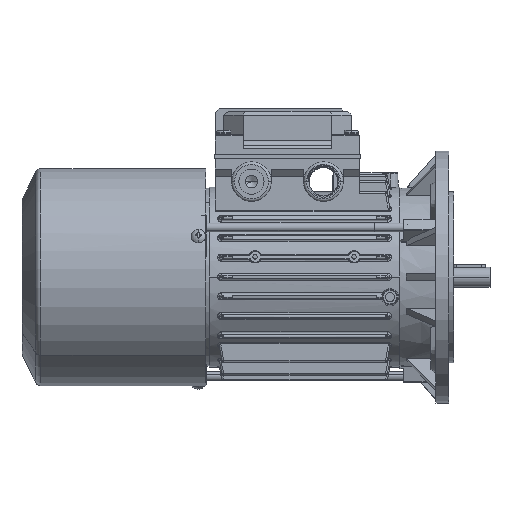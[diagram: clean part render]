
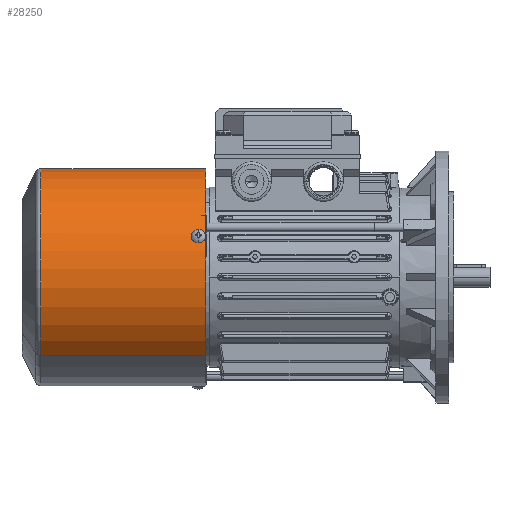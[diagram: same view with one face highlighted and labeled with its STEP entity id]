
A CAD part, top view. The second image highlights one B-rep face of the part: STEP entity #28250.
In plain terms, the highlighted cylindrical face has radius 60.5 mm (diameter 121 mm), a partial arc.
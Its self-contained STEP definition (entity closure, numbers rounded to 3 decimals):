
#2156 = CARTESIAN_POINT ( 'NONE',  ( 22.784, 96., 56.046 ) ) ;
#2487 = CARTESIAN_POINT ( 'NONE',  ( 24.447, 97.481, 55.341 ) ) ;
#5502 = EDGE_CURVE ( 'NONE', #46378, #92790, #84632, .T. ) ;
#5741 = CARTESIAN_POINT ( 'NONE',  ( 23.262, 99.897, 55.849 ) ) ;
#6064 = CARTESIAN_POINT ( 'NONE',  ( 21.183, 99.222, 56.67 ) ) ;
#6593 = DIRECTION ( 'NONE',  ( -1., 0., 0. ) ) ;
#6677 = AXIS2_PLACEMENT_3D ( 'NONE', #17742, #71002, #25391 ) ;
#8401 = CARTESIAN_POINT ( 'NONE',  ( -60.5, 10.474, 0. ) ) ;
#9468 = CARTESIAN_POINT ( 'NONE',  ( 20.797, 98., 56.813 ) ) ;
#9793 = CARTESIAN_POINT ( 'NONE',  ( 23.144, 96.064, 55.898 ) ) ;
#10126 = CARTESIAN_POINT ( 'NONE',  ( 24.506, 97.869, 55.315 ) ) ;
#10375 = EDGE_CURVE ( 'NONE', #28472, #22061, #54127, .T. ) ;
#11757 = LINE ( 'NONE', #44557, #70060 ) ;
#13349 = CARTESIAN_POINT ( 'NONE',  ( 22.908, 99.987, 55.996 ) ) ;
#13678 = CARTESIAN_POINT ( 'NONE',  ( 20.988, 98.888, 56.743 ) ) ;
#17055 = CARTESIAN_POINT ( 'NONE',  ( 20.893, 97.355, 56.778 ) ) ;
#17372 = CARTESIAN_POINT ( 'NONE',  ( 23.482, 96.202, 55.757 ) ) ;
#17742 = CARTESIAN_POINT ( 'NONE',  ( 0., 102., 0. ) ) ;
#20974 = CARTESIAN_POINT ( 'NONE',  ( 22.543, 100., 56.143 ) ) ;
#21314 = CARTESIAN_POINT ( 'NONE',  ( 20.797, 98.264, 56.813 ) ) ;
#21631 = DIRECTION ( 'NONE',  ( 0., 1., 0. ) ) ;
#22061 = VERTEX_POINT ( 'NONE', #82718 ) ;
#22452 = EDGE_LOOP ( 'NONE', ( #79610, #44572 ) ) ;
#22935 = EDGE_CURVE ( 'NONE', #28472, #74127, #53757, .T. ) ;
#24714 = CARTESIAN_POINT ( 'NONE',  ( 21.045, 96.998, 56.722 ) ) ;
#25031 = CARTESIAN_POINT ( 'NONE',  ( 23.79, 96.409, 55.626 ) ) ;
#25391 = DIRECTION ( 'NONE',  ( -1., 0., 0. ) ) ;
#27709 = DIRECTION ( 'NONE',  ( 0., 1., 0. ) ) ;
#28250 = ADVANCED_FACE ( 'NONE', ( #82869, #65065 ), #98243, .T. ) ;
#28265 = CARTESIAN_POINT ( 'NONE',  ( 24.458, 98.524, 55.336 ) ) ;
#28472 = VERTEX_POINT ( 'NONE', #8401 ) ;
#28596 = CARTESIAN_POINT ( 'NONE',  ( 22.184, 99.937, 56.286 ) ) ;
#32348 = CARTESIAN_POINT ( 'NONE',  ( 21.26, 96.678, 56.642 ) ) ;
#32674 = CARTESIAN_POINT ( 'NONE',  ( 24.054, 96.679, 55.513 ) ) ;
#35913 = CARTESIAN_POINT ( 'NONE',  ( 24.139, 99.229, 55.476 ) ) ;
#36250 = CARTESIAN_POINT ( 'NONE',  ( 21.84, 99.798, 56.42 ) ) ;
#39679 = CARTESIAN_POINT ( 'NONE',  ( 20.809, 97.738, 56.809 ) ) ;
#39970 = EDGE_CURVE ( 'NONE', #22061, #83988, #11757, .T. ) ;
#40003 = CARTESIAN_POINT ( 'NONE',  ( 21.728, 96.252, 56.464 ) ) ;
#40327 = CARTESIAN_POINT ( 'NONE',  ( 24.263, 96.997, 55.422 ) ) ;
#41338 = CIRCLE ( 'NONE', #6677, 60.5 ) ;
#42907 = CARTESIAN_POINT ( 'NONE',  ( 24.506, 98., 55.315 ) ) ;
#42985 = DIRECTION ( 'NONE',  ( -1., 0., 0. ) ) ;
#43578 = CARTESIAN_POINT ( 'NONE',  ( 23.791, 99.59, 55.626 ) ) ;
#43900 = CARTESIAN_POINT ( 'NONE',  ( 21.53, 99.592, 56.54 ) ) ;
#44557 = CARTESIAN_POINT ( 'NONE',  ( 60.5, 139.861, 0. ) ) ;
#44572 = ORIENTED_EDGE ( 'NONE', *, *, #63585, .F. ) ;
#46378 = VERTEX_POINT ( 'NONE', #79517 ) ;
#47298 = CARTESIAN_POINT ( 'NONE',  ( 20.797, 97.868, 56.813 ) ) ;
#47625 = CARTESIAN_POINT ( 'NONE',  ( 22.421, 96., 56.193 ) ) ;
#47952 = CARTESIAN_POINT ( 'NONE',  ( 24.412, 97.356, 55.356 ) ) ;
#48415 = ORIENTED_EDGE ( 'NONE', *, *, #10375, .T. ) ;
#50463 = ORIENTED_EDGE ( 'NONE', *, *, #39970, .T. ) ;
#51213 = CARTESIAN_POINT ( 'NONE',  ( 23.485, 99.797, 55.756 ) ) ;
#51545 = CARTESIAN_POINT ( 'NONE',  ( 21.261, 99.323, 56.641 ) ) ;
#52083 = DIRECTION ( 'NONE',  ( 0., 1., 0. ) ) ;
#52563 = EDGE_CURVE ( 'NONE', #74127, #83988, #41338, .T. ) ;
#53049 = CARTESIAN_POINT ( 'NONE',  ( 24.506, 98., 55.315 ) ) ;
#53757 = LINE ( 'NONE', #90740, #71641 ) ;
#54127 = CIRCLE ( 'NONE', #92729, 60.5 ) ;
#55292 = CARTESIAN_POINT ( 'NONE',  ( 22.907, 96.013, 55.996 ) ) ;
#55615 = CARTESIAN_POINT ( 'NONE',  ( 24.494, 97.737, 55.32 ) ) ;
#58867 = CARTESIAN_POINT ( 'NONE',  ( 23.144, 99.936, 55.898 ) ) ;
#59198 = CARTESIAN_POINT ( 'NONE',  ( 21.046, 99.004, 56.721 ) ) ;
#62638 = CARTESIAN_POINT ( 'NONE',  ( 20.857, 97.482, 56.791 ) ) ;
#62962 = CARTESIAN_POINT ( 'NONE',  ( 23.259, 96.102, 55.851 ) ) ;
#63292 = CARTESIAN_POINT ( 'NONE',  ( 24.506, 98., 55.315 ) ) ;
#63585 = EDGE_CURVE ( 'NONE', #92790, #46378, #95056, .T. ) ;
#65065 = FACE_OUTER_BOUND ( 'NONE', #70242, .T. ) ;
#66553 = CARTESIAN_POINT ( 'NONE',  ( 22.788, 100., 56.045 ) ) ;
#66894 = CARTESIAN_POINT ( 'NONE',  ( 20.847, 98.527, 56.795 ) ) ;
#67334 = AXIS2_PLACEMENT_3D ( 'NONE', #96104, #27709, #42985 ) ;
#70060 = VECTOR ( 'NONE', #21631, 1000. ) ;
#70242 = EDGE_LOOP ( 'NONE', ( #48415, #50463, #88093, #76275 ) ) ;
#70314 = CARTESIAN_POINT ( 'NONE',  ( 20.987, 97.113, 56.743 ) ) ;
#70637 = CARTESIAN_POINT ( 'NONE',  ( 23.59, 96.265, 55.711 ) ) ;
#71002 = DIRECTION ( 'NONE',  ( 0., 1., 0. ) ) ;
#71641 = VECTOR ( 'NONE', #83133, 1000. ) ;
#72596 = CARTESIAN_POINT ( 'NONE',  ( 60.5, 102., 0. ) ) ;
#74127 = VERTEX_POINT ( 'NONE', #75372 ) ;
#74195 = CARTESIAN_POINT ( 'NONE',  ( 22.422, 99.987, 56.192 ) ) ;
#74521 = CARTESIAN_POINT ( 'NONE',  ( 20.797, 98., 56.813 ) ) ;
#75372 = CARTESIAN_POINT ( 'NONE',  ( -60.5, 102., 0. ) ) ;
#76275 = ORIENTED_EDGE ( 'NONE', *, *, #22935, .F. ) ;
#77934 = CARTESIAN_POINT ( 'NONE',  ( 21.181, 96.781, 56.671 ) ) ;
#78254 = CARTESIAN_POINT ( 'NONE',  ( 23.883, 96.492, 55.587 ) ) ;
#79517 = CARTESIAN_POINT ( 'NONE',  ( 20.797, 98., 56.813 ) ) ;
#79610 = ORIENTED_EDGE ( 'NONE', *, *, #5502, .F. ) ;
#81488 = CARTESIAN_POINT ( 'NONE',  ( 24.275, 99.005, 55.416 ) ) ;
#81815 = CARTESIAN_POINT ( 'NONE',  ( 22.066, 99.898, 56.332 ) ) ;
#82718 = CARTESIAN_POINT ( 'NONE',  ( 60.5, 10.474, 0. ) ) ;
#82869 = FACE_BOUND ( 'NONE', #22452, .T. ) ;
#83133 = DIRECTION ( 'NONE',  ( 0., 1., 0. ) ) ;
#83988 = VERTEX_POINT ( 'NONE', #72596 ) ;
#84632 = B_SPLINE_CURVE_WITH_KNOTS ( 'NONE', 3,
 ( #9468, #47298, #39679, #62638, #17055, #70314, #24714, #77934, #32348, #85512, #40003, #93135, #47625, #2156, #55292, #9793, #62962, #17372, #70637, #25031, #78254, #32674, #85839, #40327, #93455, #47952, #2487, #55615, #10126, #63292 ),
 .UNSPECIFIED., .F., .F.,
 ( 4, 2, 2, 2, 2, 2, 2, 2, 2, 2, 2, 2, 2, 2, 4 ),
 ( 0., 0., 0.001, 0.001, 0.002, 0.002, 0.003, 0.004, 0.004, 0.004, 0.005, 0.005, 0.005, 0.006, 0.006 ),
 .UNSPECIFIED. ) ;
#85512 = CARTESIAN_POINT ( 'NONE',  ( 21.519, 96.401, 56.544 ) ) ;
#85839 = CARTESIAN_POINT ( 'NONE',  ( 24.13, 96.78, 55.48 ) ) ;
#88093 = ORIENTED_EDGE ( 'NONE', *, *, #52563, .F. ) ;
#88439 = CARTESIAN_POINT ( 'NONE',  ( 24.506, 98.261, 55.315 ) ) ;
#89084 = CARTESIAN_POINT ( 'NONE',  ( 23.885, 99.505, 55.586 ) ) ;
#89418 = CARTESIAN_POINT ( 'NONE',  ( 21.733, 99.737, 56.462 ) ) ;
#90740 = CARTESIAN_POINT ( 'NONE',  ( -60.5, 139.861, 0. ) ) ;
#92729 = AXIS2_PLACEMENT_3D ( 'NONE', #97566, #52083, #6593 ) ;
#92790 = VERTEX_POINT ( 'NONE', #53049 ) ;
#93135 = CARTESIAN_POINT ( 'NONE',  ( 22.176, 96.053, 56.29 ) ) ;
#93455 = CARTESIAN_POINT ( 'NONE',  ( 24.32, 97.114, 55.396 ) ) ;
#95056 = B_SPLINE_CURVE_WITH_KNOTS ( 'NONE', 3,
 ( #42907, #88439, #28265, #81488, #35913, #89084, #43578, #96699, #51213, #5741, #58867, #13349, #66553, #20974, #74195, #28596, #81815, #36250, #89418, #43900, #97031, #51545, #6064, #59198, #13678, #66894, #21314, #74521 ),
 .UNSPECIFIED., .F., .F.,
 ( 4, 2, 2, 2, 2, 2, 2, 2, 2, 2, 2, 2, 2, 4 ),
 ( 0.006, 0.007, 0.008, 0.008, 0.009, 0.009, 0.009, 0.01, 0.01, 0.011, 0.011, 0.011, 0.012, 0.013 ),
 .UNSPECIFIED. ) ;
#96104 = CARTESIAN_POINT ( 'NONE',  ( 0., 139.861, 0. ) ) ;
#96699 = CARTESIAN_POINT ( 'NONE',  ( 23.59, 99.735, 55.711 ) ) ;
#97031 = CARTESIAN_POINT ( 'NONE',  ( 21.434, 99.507, 56.576 ) ) ;
#97566 = CARTESIAN_POINT ( 'NONE',  ( 0., 10.474, 0. ) ) ;
#98243 = CYLINDRICAL_SURFACE ( 'NONE', #67334, 60.5 ) ;
